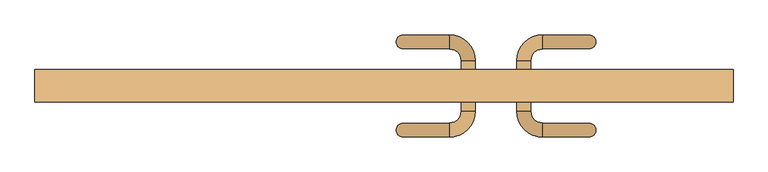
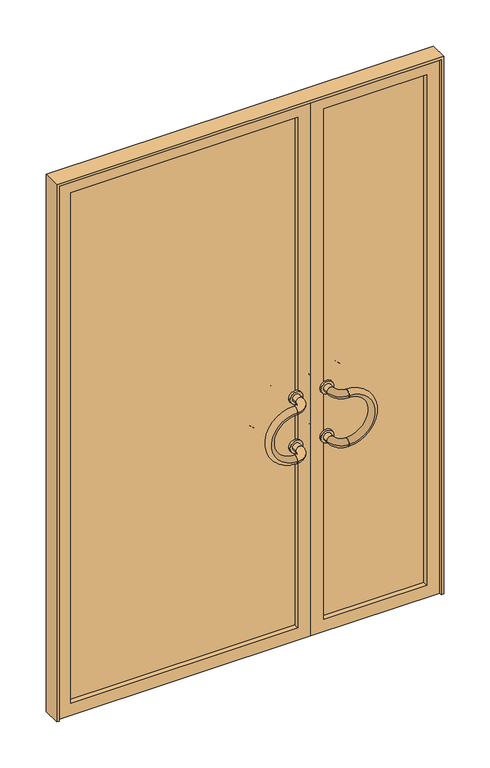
"""IFC4 building model written with IfcOpenShell, lengths in millimetres: door geometry, Tierce Vitrée grand vantail 93 : Double Vitrée."""

import ifcopenshell
import ifcopenshell.guid

model = None  # the IFC model being written
_history = None  # IfcOwnerHistory: only IFC2X3 demands one
_inside = {}  # id of a spatial element -> (the spatial element, [elements in it])
_under = {}  # id of a project, library or spatial element -> (it, [spatial elements below it])
_declared = {}  # id of a project -> (the project, [libraries it declares])
_typed = {}  # id of a type object -> (the type object, [elements of that type])
_made_of = {}  # id of a material, layer set ... -> (it, [elements and type objects made of it])


def new_model(schema):
    """Start an empty IFC model of exactly this schema.

    Asked for "IFC4X3", IfcOpenShell would pick the latest addendum, in which some entities
    have other attributes; the version numbers below select the first issue.
    IFC2X3 requires an IfcOwnerHistory on every rooted entity: one is made here for all.
    """
    global model, _history
    if schema == "IFC4X3":
        model = ifcopenshell.file(schema_version=(4, 3, 0, 0))
    else:
        model = ifcopenshell.file(schema=schema)
    _inside.clear()
    _under.clear()
    _declared.clear()
    _typed.clear()
    _made_of.clear()
    _history = None
    if model.schema == "IFC2X3":
        org = make("IfcOrganization", Name="unknown")
        user = make(
            "IfcPersonAndOrganization",
            ThePerson=make("IfcPerson", FamilyName="unknown"),
            TheOrganization=org,
        )
        app = make(
            "IfcApplication",
            ApplicationDeveloper=org,
            Version="unknown",
            ApplicationFullName="unknown",
            ApplicationIdentifier="unknown",
        )
        _history = make(
            "IfcOwnerHistory",
            OwningUser=user,
            OwningApplication=app,
            ChangeAction="ADDED",
            CreationDate=0,
        )
    return model


def make(cls, **values):
    """One entity of the class cls with the attributes given. An attribute that is None is left unset."""
    return model.create_entity(
        cls, **{name: value for name, value in values.items() if value is not None}
    )


def rooted(cls, **values):
    """An entity with a GlobalId (a new one), such as an element, a storey or a relation."""
    return make(cls, GlobalId=ifcopenshell.guid.new(), OwnerHistory=_history, **values)


def si_unit(unit_type, name, prefix=None):
    """IfcSIUnit, for example si_unit("LENGTHUNIT", "METRE", prefix="MILLI")."""
    return make("IfcSIUnit", UnitType=unit_type, Prefix=prefix, Name=name)


def assignment(units):
    """IfcUnitAssignment: the units of a project."""
    return None if units is None else make("IfcUnitAssignment", Units=units)


def point(xyz):
    """IfcCartesianPoint."""
    return None if xyz is None else make("IfcCartesianPoint", Coordinates=xyz)


def direction(xyz):
    """IfcDirection."""
    return None if xyz is None else make("IfcDirection", DirectionRatios=xyz)


def frame(location, z_axis=None, x_axis=None):
    """IfcAxis2Placement3D, a coordinate frame: its origin and axes. An axis left out is left unset."""
    return make(
        "IfcAxis2Placement3D",
        Location=point(location),
        Axis=direction(z_axis),
        RefDirection=direction(x_axis),
    )


def frame_2d(location, x_axis=None):
    """IfcAxis2Placement2D, a coordinate frame in the plane: its origin and x axis."""
    return make(
        "IfcAxis2Placement2D", Location=point(location), RefDirection=direction(x_axis)
    )


def origin():
    """The frame at (0, 0, 0) with its axes left unset."""
    return frame((0.0, 0.0, 0.0))


def place(relative_to, where):
    """IfcLocalPlacement: puts the frame where relative to a parent placement (None: the world)."""
    return make(
        "IfcLocalPlacement", PlacementRelTo=relative_to, RelativePlacement=where
    )


def context(
    kind, dimensions, precision=None, world=None, true_north=None, identifier=None
):
    """IfcGeometricRepresentationContext, for example the 3D "Model" context."""
    return make(
        "IfcGeometricRepresentationContext",
        ContextIdentifier=identifier,
        ContextType=kind,
        CoordinateSpaceDimension=dimensions,
        Precision=precision,
        WorldCoordinateSystem=world,
        TrueNorth=true_north,
    )


def project(units=None, contexts=None):
    """IfcProject with its units and contexts."""
    return rooted(
        "IfcProject",
        Name="project",
        RepresentationContexts=contexts,
        UnitsInContext=assignment(units),
    )


def spatial(cls, under=None, at=None, **own):
    """A site, building, storey or space (cls), placed at a placement, below another one or the project."""
    s = rooted(cls, ObjectPlacement=at, **own)
    if under is not None:
        _under.setdefault(under.id(), (under, []))[1].append(s)
    return s


def polyline(points):
    """IfcPolyline through the points."""
    return make("IfcPolyline", Points=[point(p) for p in points])


def circle_curve(where, radius):
    """IfcCircle in the frame where."""
    return make("IfcCircle", Position=where, Radius=radius)


def ellipse_curve(where, semi_axis1, semi_axis2):
    """IfcEllipse in the frame where."""
    return make(
        "IfcEllipse", Position=where, SemiAxis1=semi_axis1, SemiAxis2=semi_axis2
    )


def trimmed(basis, trim1, trim2, sense, master):
    """IfcTrimmedCurve: the piece of a basis curve between two trims."""
    return make(
        "IfcTrimmedCurve",
        BasisCurve=basis,
        Trim1=trim1,
        Trim2=trim2,
        SenseAgreement=sense,
        MasterRepresentation=master,
    )


def segment(curve, same_sense, transition):
    """IfcCompositeCurveSegment."""
    return make(
        "IfcCompositeCurveSegment",
        Transition=transition,
        SameSense=same_sense,
        ParentCurve=curve,
    )


def composite_curve(segments, self_intersect=None):
    """IfcCompositeCurve: segments joined end to end."""
    return make("IfcCompositeCurve", Segments=segments, SelfIntersect=self_intersect)


def outline(outer, holes=None, kind="AREA"):
    """IfcArbitraryClosedProfileDef: a profile drawn as a closed curve; with holes, ...WithVoids."""
    if holes is None:
        return make("IfcArbitraryClosedProfileDef", ProfileType=kind, OuterCurve=outer)
    return make(
        "IfcArbitraryProfileDefWithVoids",
        ProfileType=kind,
        OuterCurve=outer,
        InnerCurves=holes,
    )


def extrude(swept, where, along, depth):
    """IfcExtrudedAreaSolid: the profile swept, set in the frame where, extruded along a direction by depth."""
    return make(
        "IfcExtrudedAreaSolid",
        SweptArea=swept,
        Position=where,
        ExtrudedDirection=direction(along),
        Depth=depth,
    )


def shape(context_of_items, identifier, shape_type, items):
    """IfcShapeRepresentation: the items that make up one representation, for example the "Body"."""
    return make(
        "IfcShapeRepresentation",
        ContextOfItems=context_of_items,
        RepresentationIdentifier=identifier,
        RepresentationType=shape_type,
        Items=items,
    )


def source(mapping_origin, context_of_items, identifier, shape_type, items):
    """IfcRepresentationMap: a shape defined once, which mapped items show again and again."""
    return make(
        "IfcRepresentationMap",
        MappingOrigin=mapping_origin,
        MappedRepresentation=shape(context_of_items, identifier, shape_type, items),
    )


def transform(
    local_origin,
    x_axis=None,
    y_axis=None,
    z_axis=None,
    scale=None,
    scale2=None,
    scale3=None,
    uniform=True,
):
    """IfcCartesianTransformationOperator3D, or its non-uniform kind. x_axis, y_axis, z_axis: its Axis1, 2, 3."""
    if uniform:
        return make(
            "IfcCartesianTransformationOperator3D",
            Axis1=direction(x_axis),
            Axis2=direction(y_axis),
            LocalOrigin=point(local_origin),
            Scale=scale,
            Axis3=direction(z_axis),
        )
    return make(
        "IfcCartesianTransformationOperator3DnonUniform",
        Axis1=direction(x_axis),
        Axis2=direction(y_axis),
        LocalOrigin=point(local_origin),
        Scale=scale,
        Axis3=direction(z_axis),
        Scale2=scale2,
        Scale3=scale3,
    )


def mapped(mapping_source, mapping_target):
    """IfcMappedItem: shows the shape of a source again, moved by a transform."""
    return make(
        "IfcMappedItem", MappingSource=mapping_source, MappingTarget=mapping_target
    )


def made_of(thing, what):
    """Note that an element or type object is made of a material, layer set ...; save() writes the relation."""
    if what is not None:
        _made_of.setdefault(what.id(), (what, []))[1].append(thing)
    return thing


def element(
    cls,
    number,
    at=None,
    inside=None,
    cuts=None,
    type_object=None,
    material=None,
    context=None,
    identifier="Body",
    shape_type=None,
    held_by="IfcProductDefinitionShape",
    body=None,
    shapes=None,
    **own,
):
    """One element of the class cls, such as IfcWall. Its Tag is "e" and its number.

    at: its placement. inside: the storey or other place that contains it. cuts: it is an
    opening in that element (IfcRelVoidsElement). A single representation is given by context,
    identifier, shape_type and body (its items); several are given by shapes. held_by: the class
    of the entity that holds the representations. save() writes the other relations.
    """
    e = rooted(cls, Tag="e%d" % number, ObjectPlacement=at, **own)
    if body is not None:
        shapes = [shape(context, identifier, shape_type, body)]
    if shapes is not None:
        e.Representation = make(held_by, Representations=shapes)
    if inside is not None:
        _inside.setdefault(inside.id(), (inside, []))[1].append(e)
    if cuts is not None:
        rooted(
            "IfcRelVoidsElement", RelatingBuildingElement=cuts, RelatedOpeningElement=e
        )
    if type_object is not None:
        _typed.setdefault(type_object.id(), (type_object, []))[1].append(e)
    return made_of(e, material)


def aggregate(whole, parts):
    """IfcRelAggregates: a whole, such as a stair, and the parts it consists of."""
    return rooted("IfcRelAggregates", RelatingObject=whole, RelatedObjects=parts)


def save(model, path):
    """Write the relations noted so far, then the file.

    IfcRelAggregates (storeys below a building ...), IfcRelContainedInSpatialStructure (elements
    in a storey), IfcRelDefinesByType, IfcRelAssociatesMaterial and IfcRelDeclares: one each for
    every whole, place, type object, material and project.
    """
    for whole, parts in _under.values():
        aggregate(whole, parts)
    for where, things in _inside.values():
        rooted(
            "IfcRelContainedInSpatialStructure",
            RelatedElements=things,
            RelatingStructure=where,
        )
    for kind, things in _typed.values():
        rooted("IfcRelDefinesByType", RelatedObjects=things, RelatingType=kind)
    for what, things in _made_of.values():
        rooted("IfcRelAssociatesMaterial", RelatedObjects=things, RelatingMaterial=what)
    for by, libraries in _declared.values():
        rooted("IfcRelDeclares", RelatingContext=by, RelatedDefinitions=libraries)
    model.write(path)


def plane_surface(at):
    """IfcPlane: the flat surface through the origin of the frame at, square to its z axis."""
    return make("IfcPlane", Position=at)


def revolved_surface(curve, axis_point, axis_direction):
    """IfcSurfaceOfRevolution: the curve turned about the line through axis_point along axis_direction."""
    return make(
        "IfcSurfaceOfRevolution",
        SweptCurve=make("IfcArbitraryOpenProfileDef", ProfileType="CURVE", Curve=curve),
        AxisPosition=make("IfcAxis1Placement", Location=point(axis_point), Axis=direction(axis_direction)),
    )


def advanced_brep(points, edges, surfaces, faces):
    """IfcAdvancedBrep: a solid bounded by faces that lie on surfaces and meet in shared edges.

    An edge is (start, end): straight between two places in points (the first is 0);
    or (start, end, curve); or (start, end, curve, False) where it runs against its curve.
    A face is (place in surfaces, loops), or (place, loops, False) where it looks against
    its surface's normal. A loop lists edges by number (the first is 1), with a minus sign
    where the edge is run from its end to its start. The first loop is the outer one.
    """
    corners = [point(p) for p in points]
    vertices = [make("IfcVertexPoint", VertexGeometry=c) for c in corners]
    made = []
    for start, end, *more in edges:
        made.append(
            make(
                "IfcEdgeCurve",
                EdgeStart=vertices[start],
                EdgeEnd=vertices[end],
                EdgeGeometry=more[0] if more else make("IfcPolyline", Points=[corners[start], corners[end]]),
                SameSense=more[1] if len(more) > 1 else True,
            )
        )
    hull = []
    for where, loops, *sense in faces:
        bounds = []
        for j, loop in enumerate(loops):
            ring = [make("IfcOrientedEdge", EdgeElement=made[abs(k) - 1], Orientation=k > 0) for k in loop]
            bounds.append(
                make(
                    "IfcFaceOuterBound" if j == 0 else "IfcFaceBound",
                    Bound=make("IfcEdgeLoop", EdgeList=ring),
                    Orientation=True,
                )
            )
        hull.append(make("IfcAdvancedFace", Bounds=bounds, FaceSurface=surfaces[where], SameSense=sense[0] if sense else True))
    return make("IfcAdvancedBrep", Outer=make("IfcClosedShell", CfsFaces=hull))


def door_c1640d6f(model_context):
    return source(origin(), model_context, "Body", "SolidModel", [
        extrude(outline(composite_curve([segment(trimmed(circle_curve(frame_2d((1000.0, 180.5)), 25.0), [point((1000.0, 205.5))], [point((1000.0, 155.5))], False, "CARTESIAN"), True, "CONTINUOUS"), segment(trimmed(circle_curve(frame_2d((1000.0, 180.5)), 25.0), [point((1000.0, 155.5))], [point((1000.0, 205.5))], False, "CARTESIAN"), True, "CONTINUOUS")], self_intersect=False), holes=[composite_curve([segment(trimmed(circle_curve(frame_2d((1000.0, 180.5)), 15.0), [point((1000.0, 195.5))], [point((1000.0, 165.5))], True, "CARTESIAN"), True, "CONTINUOUS"), segment(trimmed(circle_curve(frame_2d((1000.0, 180.5)), 15.0), [point((1000.0, 165.5))], [point((1000.0, 195.5))], True, "CARTESIAN"), True, "CONTINUOUS")], self_intersect=False)]), frame((0.0, 35.0, 0.0), z_axis=(0.0, 1.0, 0.0), x_axis=(0.0, 0.0, 1.0)), (0.0, 0.0, 1.0), 8.0),
        extrude(outline(composite_curve([segment(trimmed(circle_curve(frame_2d((800.0, 180.5)), 25.0), [point((800.0, 205.5))], [point((800.0, 155.5))], False, "CARTESIAN"), True, "CONTINUOUS"), segment(trimmed(circle_curve(frame_2d((800.0, 180.5)), 25.0), [point((800.0, 155.5))], [point((800.0, 205.5))], False, "CARTESIAN"), True, "CONTINUOUS")], self_intersect=False), holes=[composite_curve([segment(trimmed(circle_curve(frame_2d((800.0, 180.5)), 15.0), [point((800.0, 195.5))], [point((800.0, 165.5))], True, "CARTESIAN"), True, "CONTINUOUS"), segment(trimmed(circle_curve(frame_2d((800.0, 180.5)), 15.0), [point((800.0, 165.5))], [point((800.0, 195.5))], True, "CARTESIAN"), True, "CONTINUOUS")], self_intersect=False)]), frame((0.0, 35.0, 0.0), z_axis=(0.0, 1.0, 0.0), x_axis=(0.0, 0.0, 1.0)), (0.0, 0.0, 1.0), 8.0),
        extrude(outline(composite_curve([segment(trimmed(circle_curve(frame_2d((1000.0, 180.5)), 25.0), [point((1000.0, 205.5))], [point((1000.0, 155.5))], False, "CARTESIAN"), True, "CONTINUOUS"), segment(trimmed(circle_curve(frame_2d((1000.0, 180.5)), 25.0), [point((1000.0, 155.5))], [point((1000.0, 205.5))], False, "CARTESIAN"), True, "CONTINUOUS")], self_intersect=False), holes=[composite_curve([segment(trimmed(circle_curve(frame_2d((1000.0, 180.5)), 15.0), [point((1000.0, 195.5))], [point((1000.0, 165.5))], True, "CARTESIAN"), True, "CONTINUOUS"), segment(trimmed(circle_curve(frame_2d((1000.0, 180.5)), 15.0), [point((1000.0, 165.5))], [point((1000.0, 195.5))], True, "CARTESIAN"), True, "CONTINUOUS")], self_intersect=False)]), frame((0.0, -23.0, 0.0), z_axis=(0.0, 1.0, 0.0), x_axis=(0.0, 0.0, 1.0)), (0.0, 0.0, 1.0), 8.0),
        extrude(outline(composite_curve([segment(trimmed(circle_curve(frame_2d((800.0, 180.5)), 25.0), [point((800.0, 205.5))], [point((800.0, 155.5))], False, "CARTESIAN"), True, "CONTINUOUS"), segment(trimmed(circle_curve(frame_2d((800.0, 180.5)), 25.0), [point((800.0, 155.5))], [point((800.0, 205.5))], False, "CARTESIAN"), True, "CONTINUOUS")], self_intersect=False), holes=[composite_curve([segment(trimmed(circle_curve(frame_2d((800.0, 180.5)), 15.0), [point((800.0, 195.5))], [point((800.0, 165.5))], True, "CARTESIAN"), True, "CONTINUOUS"), segment(trimmed(circle_curve(frame_2d((800.0, 180.5)), 15.0), [point((800.0, 165.5))], [point((800.0, 195.5))], True, "CARTESIAN"), True, "CONTINUOUS")], self_intersect=False)]), frame((0.0, -23.0, 0.0), z_axis=(0.0, 1.0, 0.0), x_axis=(0.0, 0.0, 1.0)), (0.0, 0.0, 1.0), 8.0),
        advanced_brep(
        [(140.5, 120.0, 1000.0), (140.5, 90.0, 1000.0), (140.5, 120.0, 800.0), (140.5, 90.0, 800.0)],
        [
            (0, 1, circle_curve(frame((140.5, 105.0, 1000.0), z_axis=(1.0, 0.0, 0.0), x_axis=(0.0, -1.0, 0.0)), 15.0)),
            (1, 0, circle_curve(frame((140.5, 105.0, 1000.0), z_axis=(1.0, 0.0, 0.0), x_axis=(0.0, -1.0, 0.0)), 15.0)),
            (2, 3, circle_curve(frame((140.5, 105.0, 800.0), z_axis=(1.0, 0.0, 0.0), x_axis=(0.0, -1.0, 0.0)), 15.0)),
            (3, 2, circle_curve(frame((140.5, 105.0, 800.0), z_axis=(1.0, 0.0, 0.0), x_axis=(0.0, -1.0, 0.0)), 15.0)),
            (2, 0, circle_curve(frame((140.5, 120.0, 900.0), z_axis=(0.0, 1.0, 0.0), x_axis=(0.0, 0.0, 1.0)), 100.0)),
            (1, 3, circle_curve(frame((140.5, 90.0, 900.0), z_axis=(0.0, -1.0, 0.0), x_axis=(0.0, 0.0, 1.0)), 100.0)),
        ],
        [
            plane_surface(frame((140.5, 105.0, 900.0), z_axis=(1.0, 0.0, 0.0), x_axis=(0.0, 0.0, 1.0))),
            plane_surface(frame((140.5, 105.0, 900.0), z_axis=(1.0, 0.0, 0.0), x_axis=(0.0, 0.0, -1.0))),
            revolved_surface(trimmed(ellipse_curve(frame((140.5, 105.0, 1000.0), z_axis=(-1.0, 0.0, 0.0), x_axis=(0.0, -1.0, 0.0)), 15.0, 15.0), [point((140.5, 120.0, 1000.0))], [point((140.5, 90.0, 1000.0))], True, "CARTESIAN"), (140.5, 105.0, 900.0), (0.0, 1.0, 0.0)),
            revolved_surface(trimmed(ellipse_curve(frame((140.5, 105.0, 1000.0), z_axis=(-1.0, 0.0, 0.0), x_axis=(0.0, -1.0, 0.0)), 15.0, 15.0), [point((140.5, 90.0, 1000.0))], [point((140.5, 120.0, 1000.0))], True, "CARTESIAN"), (140.5, 105.0, 900.0), (0.0, 1.0, 0.0)),
        ],
        [
            (0, [[1, 2]]),
            (1, [[3, 4]]),
            (2, [[-3, 5, -2, 6]]),
            (3, [[-4, -6, -1, -5]]),
        ],
    ),
        advanced_brep(
        [(165.5, 65.0, 1000.0), (195.5, 65.0, 1000.0), (140.5, 90.0, 1000.0), (140.5, 120.0, 1000.0)],
        [
            (0, 1, circle_curve(frame((180.5, 65.0, 1000.0), z_axis=(0.0, -1.0, 0.0), x_axis=(1.0, 0.0, 0.0)), 15.0)),
            (1, 0, circle_curve(frame((180.5, 65.0, 1000.0), z_axis=(0.0, -1.0, 0.0), x_axis=(1.0, 0.0, 0.0)), 15.0)),
            (2, 3, circle_curve(frame((140.5, 105.0, 1000.0), z_axis=(-1.0, 0.0, 0.0), x_axis=(0.0, 1.0, 0.0)), 15.0)),
            (3, 2, circle_curve(frame((140.5, 105.0, 1000.0), z_axis=(-1.0, 0.0, 0.0), x_axis=(0.0, 1.0, 0.0)), 15.0)),
            (2, 0, circle_curve(frame((140.5, 65.0, 1000.0), z_axis=(0.0, 0.0, -1.0), x_axis=(1.0, 0.0, 0.0)), 25.0)),
            (1, 3, circle_curve(frame((140.5, 65.0, 1000.0), z_axis=(0.0, 0.0, 1.0), x_axis=(1.0, 0.0, 0.0)), 55.0)),
        ],
        [
            plane_surface(frame((140.5, 65.0, 1000.0), z_axis=(0.0, -1.0, 0.0), x_axis=(1.0, 0.0, 0.0))),
            plane_surface(frame((140.5, 65.0, 1000.0), z_axis=(-1.0, 0.0, 0.0), x_axis=(0.0, 1.0, 0.0))),
            revolved_surface(trimmed(ellipse_curve(frame((180.5, 65.0, 1000.0), z_axis=(0.0, 1.0, 0.0), x_axis=(1.0, 0.0, 0.0)), 15.0, 15.0), [point((165.5, 65.0, 1000.0))], [point((195.5, 65.0, 1000.0))], True, "CARTESIAN"), (140.5, 65.0, 1000.0), (0.0, 0.0, -1.0)),
            revolved_surface(trimmed(ellipse_curve(frame((180.5, 65.0, 1000.0), z_axis=(0.0, 1.0, 0.0), x_axis=(1.0, 0.0, 0.0)), 15.0, 15.0), [point((195.5, 65.0, 1000.0))], [point((165.5, 65.0, 1000.0))], True, "CARTESIAN"), (140.5, 65.0, 1000.0), (0.0, 0.0, -1.0)),
        ],
        [
            (0, [[1, 2]]),
            (1, [[3, 4]]),
            (2, [[-3, 5, -2, 6]]),
            (3, [[-4, -6, -1, -5]]),
        ],
    ),
        advanced_brep(
        [(165.5, 65.0, 800.0), (195.5, 65.0, 800.0), (140.5, 90.0, 800.0), (140.5, 120.0, 800.0)],
        [
            (0, 1, circle_curve(frame((180.5, 65.0, 800.0), z_axis=(0.0, -1.0, 0.0), x_axis=(1.0, 0.0, 0.0)), 15.0)),
            (1, 0, circle_curve(frame((180.5, 65.0, 800.0), z_axis=(0.0, -1.0, 0.0), x_axis=(1.0, 0.0, 0.0)), 15.0)),
            (2, 3, circle_curve(frame((140.5, 105.0, 800.0), z_axis=(-1.0, 0.0, 0.0), x_axis=(0.0, 1.0, 0.0)), 15.0)),
            (3, 2, circle_curve(frame((140.5, 105.0, 800.0), z_axis=(-1.0, 0.0, 0.0), x_axis=(0.0, 1.0, 0.0)), 15.0)),
            (2, 0, circle_curve(frame((140.5, 65.0, 800.0), z_axis=(0.0, 0.0, -1.0), x_axis=(1.0, 0.0, 0.0)), 25.0)),
            (1, 3, circle_curve(frame((140.5, 65.0, 800.0), z_axis=(0.0, 0.0, 1.0), x_axis=(1.0, 0.0, 0.0)), 55.0)),
        ],
        [
            plane_surface(frame((140.5, 65.0, 1000.0), z_axis=(0.0, -1.0, 0.0), x_axis=(1.0, 0.0, 0.0))),
            plane_surface(frame((140.5, 65.0, 1000.0), z_axis=(-1.0, 0.0, 0.0), x_axis=(0.0, 1.0, 0.0))),
            revolved_surface(trimmed(ellipse_curve(frame((180.5, 65.0, 800.0), z_axis=(0.0, 1.0, 0.0), x_axis=(1.0, 0.0, 0.0)), 15.0, 15.0), [point((165.5, 65.0, 800.0))], [point((195.5, 65.0, 800.0))], True, "CARTESIAN"), (140.5, 65.0, 1000.0), (0.0, 0.0, -1.0)),
            revolved_surface(trimmed(ellipse_curve(frame((180.5, 65.0, 800.0), z_axis=(0.0, 1.0, 0.0), x_axis=(1.0, 0.0, 0.0)), 15.0, 15.0), [point((195.5, 65.0, 800.0))], [point((165.5, 65.0, 800.0))], True, "CARTESIAN"), (140.5, 65.0, 1000.0), (0.0, 0.0, -1.0)),
        ],
        [
            (0, [[1, 2]]),
            (1, [[3, 4]]),
            (2, [[-3, 5, -2, 6]]),
            (3, [[-4, -6, -1, -5]]),
        ],
    ),
        extrude(outline(composite_curve([segment(trimmed(circle_curve(frame_2d((1000.0, 180.5)), 15.0), [point((1000.0, 195.5))], [point((1000.0, 165.5))], False, "CARTESIAN"), True, "CONTINUOUS"), segment(trimmed(circle_curve(frame_2d((1000.0, 180.5)), 15.0), [point((1000.0, 165.5))], [point((1000.0, 195.5))], False, "CARTESIAN"), True, "CONTINUOUS")], self_intersect=False)), frame((0.0, 35.0, 0.0), z_axis=(0.0, 1.0, 0.0), x_axis=(0.0, 0.0, 1.0)), (0.0, 0.0, 1.0), 30.0),
        extrude(outline(composite_curve([segment(trimmed(circle_curve(frame_2d((800.0, 180.5)), 15.0), [point((800.0, 195.5))], [point((800.0, 165.5))], False, "CARTESIAN"), True, "CONTINUOUS"), segment(trimmed(circle_curve(frame_2d((800.0, 180.5)), 15.0), [point((800.0, 165.5))], [point((800.0, 195.5))], False, "CARTESIAN"), True, "CONTINUOUS")], self_intersect=False)), frame((0.0, 35.0, 0.0), z_axis=(0.0, 1.0, 0.0), x_axis=(0.0, 0.0, 1.0)), (0.0, 0.0, 1.0), 30.0),
        advanced_brep(
        [(140.5, -70.0, 1000.0), (140.5, -100.0, 1000.0), (140.5, -70.0, 800.0), (140.5, -100.0, 800.0)],
        [
            (0, 1, circle_curve(frame((140.5, -85.0, 1000.0), z_axis=(1.0, 0.0, 0.0), x_axis=(0.0, -1.0, 0.0)), 15.0)),
            (1, 0, circle_curve(frame((140.5, -85.0, 1000.0), z_axis=(1.0, 0.0, 0.0), x_axis=(0.0, -1.0, 0.0)), 15.0)),
            (2, 3, circle_curve(frame((140.5, -85.0, 800.0), z_axis=(1.0, 0.0, 0.0), x_axis=(0.0, -1.0, 0.0)), 15.0)),
            (3, 2, circle_curve(frame((140.5, -85.0, 800.0), z_axis=(1.0, 0.0, 0.0), x_axis=(0.0, -1.0, 0.0)), 15.0)),
            (2, 0, circle_curve(frame((140.5, -70.0, 900.0), z_axis=(0.0, 1.0, 0.0), x_axis=(0.0, 0.0, 1.0)), 100.0)),
            (1, 3, circle_curve(frame((140.5, -100.0, 900.0), z_axis=(0.0, -1.0, 0.0), x_axis=(0.0, 0.0, 1.0)), 100.0)),
        ],
        [
            plane_surface(frame((140.5, -100.0, 900.0), z_axis=(1.0, 0.0, 0.0), x_axis=(0.0, 0.0, 1.0))),
            plane_surface(frame((140.5, -100.0, 900.0), z_axis=(1.0, 0.0, 0.0), x_axis=(0.0, 0.0, -1.0))),
            revolved_surface(trimmed(ellipse_curve(frame((140.5, -85.0, 1000.0), z_axis=(-1.0, 0.0, 0.0), x_axis=(0.0, -1.0, 0.0)), 15.0, 15.0), [point((140.5, -70.0, 1000.0))], [point((140.5, -100.0, 1000.0))], True, "CARTESIAN"), (140.5, -100.0, 900.0), (0.0, 1.0, 0.0)),
            revolved_surface(trimmed(ellipse_curve(frame((140.5, -85.0, 1000.0), z_axis=(-1.0, 0.0, 0.0), x_axis=(0.0, -1.0, 0.0)), 15.0, 15.0), [point((140.5, -100.0, 1000.0))], [point((140.5, -70.0, 1000.0))], True, "CARTESIAN"), (140.5, -100.0, 900.0), (0.0, 1.0, 0.0)),
        ],
        [
            (0, [[1, 2]]),
            (1, [[3, 4]]),
            (2, [[-3, 5, -2, 6]]),
            (3, [[-4, -6, -1, -5]]),
        ],
    ),
        advanced_brep(
        [(195.5, -45.0, 1000.0), (165.5, -45.0, 1000.0), (140.5, -100.0, 1000.0), (140.5, -70.0, 1000.0)],
        [
            (0, 1, circle_curve(frame((180.5, -45.0, 1000.0), z_axis=(0.0, 1.0, 0.0), x_axis=(-1.0, 0.0, 0.0)), 15.0)),
            (1, 0, circle_curve(frame((180.5, -45.0, 1000.0), z_axis=(0.0, 1.0, 0.0), x_axis=(-1.0, 0.0, 0.0)), 15.0)),
            (2, 3, circle_curve(frame((140.5, -85.0, 1000.0), z_axis=(-1.0, 0.0, 0.0), x_axis=(0.0, 1.0, 0.0)), 15.0)),
            (3, 2, circle_curve(frame((140.5, -85.0, 1000.0), z_axis=(-1.0, 0.0, 0.0), x_axis=(0.0, 1.0, 0.0)), 15.0)),
            (2, 0, circle_curve(frame((140.5, -45.0, 1000.0), z_axis=(0.0, 0.0, 1.0), x_axis=(1.0, 0.0, 0.0)), 55.0)),
            (1, 3, circle_curve(frame((140.5, -45.0, 1000.0), z_axis=(0.0, 0.0, -1.0), x_axis=(1.0, 0.0, 0.0)), 25.0)),
        ],
        [
            plane_surface(frame((140.5, -45.0, 1000.0), z_axis=(0.0, 1.0, 0.0), x_axis=(1.0, 0.0, 0.0))),
            plane_surface(frame((140.5, -45.0, 1000.0), z_axis=(-1.0, 0.0, 0.0), x_axis=(0.0, -1.0, 0.0))),
            revolved_surface(trimmed(ellipse_curve(frame((180.5, -45.0, 1000.0), z_axis=(0.0, -1.0, 0.0), x_axis=(-1.0, 0.0, 0.0)), 15.0, 15.0), [point((195.5, -45.0, 1000.0))], [point((165.5, -45.0, 1000.0))], True, "CARTESIAN"), (140.5, -45.0, 1000.0), (0.0, 0.0, 1.0)),
            revolved_surface(trimmed(ellipse_curve(frame((180.5, -45.0, 1000.0), z_axis=(0.0, -1.0, 0.0), x_axis=(-1.0, 0.0, 0.0)), 15.0, 15.0), [point((165.5, -45.0, 1000.0))], [point((195.5, -45.0, 1000.0))], True, "CARTESIAN"), (140.5, -45.0, 1000.0), (0.0, 0.0, 1.0)),
        ],
        [
            (0, [[1, 2]]),
            (1, [[3, 4]]),
            (2, [[-3, 5, -2, 6]]),
            (3, [[-4, -6, -1, -5]]),
        ],
    ),
        advanced_brep(
        [(195.5, -45.0, 800.0), (165.5, -45.0, 800.0), (140.5, -100.0, 800.0), (140.5, -70.0, 800.0)],
        [
            (0, 1, circle_curve(frame((180.5, -45.0, 800.0), z_axis=(0.0, 1.0, 0.0), x_axis=(-1.0, 0.0, 0.0)), 15.0)),
            (1, 0, circle_curve(frame((180.5, -45.0, 800.0), z_axis=(0.0, 1.0, 0.0), x_axis=(-1.0, 0.0, 0.0)), 15.0)),
            (2, 3, circle_curve(frame((140.5, -85.0, 800.0), z_axis=(-1.0, 0.0, 0.0), x_axis=(0.0, 1.0, 0.0)), 15.0)),
            (3, 2, circle_curve(frame((140.5, -85.0, 800.0), z_axis=(-1.0, 0.0, 0.0), x_axis=(0.0, 1.0, 0.0)), 15.0)),
            (2, 0, circle_curve(frame((140.5, -45.0, 800.0), z_axis=(0.0, 0.0, 1.0), x_axis=(1.0, 0.0, 0.0)), 55.0)),
            (1, 3, circle_curve(frame((140.5, -45.0, 800.0), z_axis=(0.0, 0.0, -1.0), x_axis=(1.0, 0.0, 0.0)), 25.0)),
        ],
        [
            plane_surface(frame((140.5, -45.0, 1000.0), z_axis=(0.0, 1.0, 0.0), x_axis=(1.0, 0.0, 0.0))),
            plane_surface(frame((140.5, -45.0, 1000.0), z_axis=(-1.0, 0.0, 0.0), x_axis=(0.0, -1.0, 0.0))),
            revolved_surface(trimmed(ellipse_curve(frame((180.5, -45.0, 800.0), z_axis=(0.0, -1.0, 0.0), x_axis=(-1.0, 0.0, 0.0)), 15.0, 15.0), [point((195.5, -45.0, 800.0))], [point((165.5, -45.0, 800.0))], True, "CARTESIAN"), (140.5, -45.0, 1000.0), (0.0, 0.0, 1.0)),
            revolved_surface(trimmed(ellipse_curve(frame((180.5, -45.0, 800.0), z_axis=(0.0, -1.0, 0.0), x_axis=(-1.0, 0.0, 0.0)), 15.0, 15.0), [point((165.5, -45.0, 800.0))], [point((195.5, -45.0, 800.0))], True, "CARTESIAN"), (140.5, -45.0, 1000.0), (0.0, 0.0, 1.0)),
        ],
        [
            (0, [[1, 2]]),
            (1, [[3, 4]]),
            (2, [[-3, 5, -2, 6]]),
            (3, [[-4, -6, -1, -5]]),
        ],
    ),
        extrude(outline(composite_curve([segment(trimmed(circle_curve(frame_2d((1000.0, 180.5)), 15.0), [point((1000.0, 195.5))], [point((1000.0, 165.5))], False, "CARTESIAN"), True, "CONTINUOUS"), segment(trimmed(circle_curve(frame_2d((1000.0, 180.5)), 15.0), [point((1000.0, 165.5))], [point((1000.0, 195.5))], False, "CARTESIAN"), True, "CONTINUOUS")], self_intersect=False)), frame((0.0, -45.0, 0.0), z_axis=(0.0, 1.0, 0.0), x_axis=(0.0, 0.0, 1.0)), (0.0, 0.0, 1.0), 30.0),
        extrude(outline(composite_curve([segment(trimmed(circle_curve(frame_2d((800.0, 180.5)), 15.0), [point((800.0, 195.5))], [point((800.0, 165.5))], False, "CARTESIAN"), True, "CONTINUOUS"), segment(trimmed(circle_curve(frame_2d((800.0, 180.5)), 15.0), [point((800.0, 165.5))], [point((800.0, 195.5))], False, "CARTESIAN"), True, "CONTINUOUS")], self_intersect=False)), frame((0.0, -45.0, 0.0), z_axis=(0.0, 1.0, 0.0), x_axis=(0.0, 0.0, 1.0)), (0.0, 0.0, 1.0), 30.0),
        extrude(outline(composite_curve([segment(trimmed(circle_curve(frame_2d((1000.0, 300.5)), 25.0), [point((1000.0, 275.5))], [point((1000.0, 325.5))], False, "CARTESIAN"), True, "CONTINUOUS"), segment(trimmed(circle_curve(frame_2d((1000.0, 300.5)), 25.0), [point((1000.0, 325.5))], [point((1000.0, 275.5))], False, "CARTESIAN"), True, "CONTINUOUS")], self_intersect=False), holes=[composite_curve([segment(trimmed(circle_curve(frame_2d((1000.0, 300.5)), 15.0), [point((1000.0, 285.5))], [point((1000.0, 315.5))], True, "CARTESIAN"), True, "CONTINUOUS"), segment(trimmed(circle_curve(frame_2d((1000.0, 300.5)), 15.0), [point((1000.0, 315.5))], [point((1000.0, 285.5))], True, "CARTESIAN"), True, "CONTINUOUS")], self_intersect=False)]), frame((0.0, 35.0, 0.0), z_axis=(0.0, 1.0, 0.0), x_axis=(0.0, 0.0, 1.0)), (0.0, 0.0, 1.0), 8.0),
        extrude(outline(composite_curve([segment(trimmed(circle_curve(frame_2d((800.0, 300.5)), 25.0), [point((800.0, 275.5))], [point((800.0, 325.5))], False, "CARTESIAN"), True, "CONTINUOUS"), segment(trimmed(circle_curve(frame_2d((800.0, 300.5)), 25.0), [point((800.0, 325.5))], [point((800.0, 275.5))], False, "CARTESIAN"), True, "CONTINUOUS")], self_intersect=False), holes=[composite_curve([segment(trimmed(circle_curve(frame_2d((800.0, 300.5)), 15.0), [point((800.0, 285.5))], [point((800.0, 315.5))], True, "CARTESIAN"), True, "CONTINUOUS"), segment(trimmed(circle_curve(frame_2d((800.0, 300.5)), 15.0), [point((800.0, 315.5))], [point((800.0, 285.5))], True, "CARTESIAN"), True, "CONTINUOUS")], self_intersect=False)]), frame((0.0, 35.0, 0.0), z_axis=(0.0, 1.0, 0.0), x_axis=(0.0, 0.0, 1.0)), (0.0, 0.0, 1.0), 8.0),
        extrude(outline(composite_curve([segment(trimmed(circle_curve(frame_2d((1000.0, 300.5)), 25.0), [point((1000.0, 275.5))], [point((1000.0, 325.5))], False, "CARTESIAN"), True, "CONTINUOUS"), segment(trimmed(circle_curve(frame_2d((1000.0, 300.5)), 25.0), [point((1000.0, 325.5))], [point((1000.0, 275.5))], False, "CARTESIAN"), True, "CONTINUOUS")], self_intersect=False), holes=[composite_curve([segment(trimmed(circle_curve(frame_2d((1000.0, 300.5)), 15.0), [point((1000.0, 285.5))], [point((1000.0, 315.5))], True, "CARTESIAN"), True, "CONTINUOUS"), segment(trimmed(circle_curve(frame_2d((1000.0, 300.5)), 15.0), [point((1000.0, 315.5))], [point((1000.0, 285.5))], True, "CARTESIAN"), True, "CONTINUOUS")], self_intersect=False)]), frame((0.0, -23.0, 0.0), z_axis=(0.0, 1.0, 0.0), x_axis=(0.0, 0.0, 1.0)), (0.0, 0.0, 1.0), 8.0),
        extrude(outline(composite_curve([segment(trimmed(circle_curve(frame_2d((800.0, 300.5)), 25.0), [point((800.0, 275.5))], [point((800.0, 325.5))], False, "CARTESIAN"), True, "CONTINUOUS"), segment(trimmed(circle_curve(frame_2d((800.0, 300.5)), 25.0), [point((800.0, 325.5))], [point((800.0, 275.5))], False, "CARTESIAN"), True, "CONTINUOUS")], self_intersect=False), holes=[composite_curve([segment(trimmed(circle_curve(frame_2d((800.0, 300.5)), 15.0), [point((800.0, 285.5))], [point((800.0, 315.5))], True, "CARTESIAN"), True, "CONTINUOUS"), segment(trimmed(circle_curve(frame_2d((800.0, 300.5)), 15.0), [point((800.0, 315.5))], [point((800.0, 285.5))], True, "CARTESIAN"), True, "CONTINUOUS")], self_intersect=False)]), frame((0.0, -23.0, 0.0), z_axis=(0.0, 1.0, 0.0), x_axis=(0.0, 0.0, 1.0)), (0.0, 0.0, 1.0), 8.0),
        advanced_brep(
        [(340.5, 120.0, 1000.0), (340.5, 90.0, 1000.0), (340.5, 120.0, 800.0), (340.5, 90.0, 800.0)],
        [
            (0, 1, circle_curve(frame((340.5, 105.0, 1000.0), z_axis=(-1.0, 0.0, 0.0), x_axis=(0.0, -1.0, 0.0)), 15.0)),
            (1, 0, circle_curve(frame((340.5, 105.0, 1000.0), z_axis=(-1.0, 0.0, 0.0), x_axis=(0.0, -1.0, 0.0)), 15.0)),
            (2, 3, circle_curve(frame((340.5, 105.0, 800.0), z_axis=(-1.0, 0.0, 0.0), x_axis=(0.0, -1.0, 0.0)), 15.0)),
            (3, 2, circle_curve(frame((340.5, 105.0, 800.0), z_axis=(-1.0, 0.0, 0.0), x_axis=(0.0, -1.0, 0.0)), 15.0)),
            (3, 1, circle_curve(frame((340.5, 90.0, 900.0), z_axis=(0.0, -1.0, 0.0), x_axis=(0.0, 0.0, 1.0)), 100.0)),
            (0, 2, circle_curve(frame((340.5, 120.0, 900.0), z_axis=(0.0, 1.0, 0.0), x_axis=(0.0, 0.0, 1.0)), 100.0)),
        ],
        [
            plane_surface(frame((340.5, 105.0, 900.0), z_axis=(-1.0, 0.0, 0.0), x_axis=(0.0, 0.0, 1.0))),
            plane_surface(frame((340.5, 105.0, 900.0), z_axis=(-1.0, 0.0, 0.0), x_axis=(0.0, 0.0, -1.0))),
            revolved_surface(trimmed(ellipse_curve(frame((340.5, 105.0, 1000.0), z_axis=(-1.0, 0.0, 0.0), x_axis=(0.0, -1.0, 0.0)), 15.0, 15.0), [point((340.5, 120.0, 1000.0))], [point((340.5, 90.0, 1000.0))], True, "CARTESIAN"), (340.5, 105.0, 900.0), (0.0, 1.0, 0.0)),
            revolved_surface(trimmed(ellipse_curve(frame((340.5, 105.0, 1000.0), z_axis=(-1.0, 0.0, 0.0), x_axis=(0.0, -1.0, 0.0)), 15.0, 15.0), [point((340.5, 90.0, 1000.0))], [point((340.5, 120.0, 1000.0))], True, "CARTESIAN"), (340.5, 105.0, 900.0), (0.0, 1.0, 0.0)),
        ],
        [
            (0, [[1, 2]]),
            (1, [[3, 4]]),
            (2, [[5, -1, 6, -4]]),
            (3, [[-6, -2, -5, -3]]),
        ],
    ),
        advanced_brep(
        [(315.5, 65.0, 1000.0), (285.5, 65.0, 1000.0), (340.5, 90.0, 1000.0), (340.5, 120.0, 1000.0)],
        [
            (0, 1, circle_curve(frame((300.5, 65.0, 1000.0), z_axis=(0.0, -1.0, 0.0), x_axis=(-1.0, 0.0, 0.0)), 15.0)),
            (1, 0, circle_curve(frame((300.5, 65.0, 1000.0), z_axis=(0.0, -1.0, 0.0), x_axis=(-1.0, 0.0, 0.0)), 15.0)),
            (2, 3, circle_curve(frame((340.5, 105.0, 1000.0), z_axis=(1.0, 0.0, 0.0), x_axis=(0.0, 1.0, 0.0)), 15.0)),
            (3, 2, circle_curve(frame((340.5, 105.0, 1000.0), z_axis=(1.0, 0.0, 0.0), x_axis=(0.0, 1.0, 0.0)), 15.0)),
            (3, 1, circle_curve(frame((340.5, 65.0, 1000.0), z_axis=(0.0, 0.0, 1.0), x_axis=(-1.0, 0.0, 0.0)), 55.0)),
            (0, 2, circle_curve(frame((340.5, 65.0, 1000.0), z_axis=(0.0, 0.0, -1.0), x_axis=(-1.0, 0.0, 0.0)), 25.0)),
        ],
        [
            plane_surface(frame((340.5, 65.0, 1000.0), z_axis=(0.0, -1.0, 0.0), x_axis=(-1.0, 0.0, 0.0))),
            plane_surface(frame((340.5, 65.0, 1000.0), z_axis=(1.0, 0.0, 0.0), x_axis=(0.0, 1.0, 0.0))),
            revolved_surface(trimmed(ellipse_curve(frame((300.5, 65.0, 1000.0), z_axis=(0.0, -1.0, 0.0), x_axis=(-1.0, 0.0, 0.0)), 15.0, 15.0), [point((315.5, 65.0, 1000.0))], [point((285.5, 65.0, 1000.0))], True, "CARTESIAN"), (340.5, 65.0, 1000.0), (0.0, 0.0, -1.0)),
            revolved_surface(trimmed(ellipse_curve(frame((300.5, 65.0, 1000.0), z_axis=(0.0, -1.0, 0.0), x_axis=(-1.0, 0.0, 0.0)), 15.0, 15.0), [point((285.5, 65.0, 1000.0))], [point((315.5, 65.0, 1000.0))], True, "CARTESIAN"), (340.5, 65.0, 1000.0), (0.0, 0.0, -1.0)),
        ],
        [
            (0, [[1, 2]]),
            (1, [[3, 4]]),
            (2, [[5, -1, 6, -4]]),
            (3, [[-6, -2, -5, -3]]),
        ],
    ),
        advanced_brep(
        [(315.5, 65.0, 800.0), (285.5, 65.0, 800.0), (340.5, 90.0, 800.0), (340.5, 120.0, 800.0)],
        [
            (0, 1, circle_curve(frame((300.5, 65.0, 800.0), z_axis=(0.0, -1.0, 0.0), x_axis=(-1.0, 0.0, 0.0)), 15.0)),
            (1, 0, circle_curve(frame((300.5, 65.0, 800.0), z_axis=(0.0, -1.0, 0.0), x_axis=(-1.0, 0.0, 0.0)), 15.0)),
            (2, 3, circle_curve(frame((340.5, 105.0, 800.0), z_axis=(1.0, 0.0, 0.0), x_axis=(0.0, 1.0, 0.0)), 15.0)),
            (3, 2, circle_curve(frame((340.5, 105.0, 800.0), z_axis=(1.0, 0.0, 0.0), x_axis=(0.0, 1.0, 0.0)), 15.0)),
            (3, 1, circle_curve(frame((340.5, 65.0, 800.0), z_axis=(0.0, 0.0, 1.0), x_axis=(-1.0, 0.0, 0.0)), 55.0)),
            (0, 2, circle_curve(frame((340.5, 65.0, 800.0), z_axis=(0.0, 0.0, -1.0), x_axis=(-1.0, 0.0, 0.0)), 25.0)),
        ],
        [
            plane_surface(frame((340.5, 65.0, 1000.0), z_axis=(0.0, -1.0, 0.0), x_axis=(-1.0, 0.0, 0.0))),
            plane_surface(frame((340.5, 65.0, 1000.0), z_axis=(1.0, 0.0, 0.0), x_axis=(0.0, 1.0, 0.0))),
            revolved_surface(trimmed(ellipse_curve(frame((300.5, 65.0, 800.0), z_axis=(0.0, -1.0, 0.0), x_axis=(-1.0, 0.0, 0.0)), 15.0, 15.0), [point((315.5, 65.0, 800.0))], [point((285.5, 65.0, 800.0))], True, "CARTESIAN"), (340.5, 65.0, 1000.0), (0.0, 0.0, -1.0)),
            revolved_surface(trimmed(ellipse_curve(frame((300.5, 65.0, 800.0), z_axis=(0.0, -1.0, 0.0), x_axis=(-1.0, 0.0, 0.0)), 15.0, 15.0), [point((285.5, 65.0, 800.0))], [point((315.5, 65.0, 800.0))], True, "CARTESIAN"), (340.5, 65.0, 1000.0), (0.0, 0.0, -1.0)),
        ],
        [
            (0, [[1, 2]]),
            (1, [[3, 4]]),
            (2, [[5, -1, 6, -4]]),
            (3, [[-6, -2, -5, -3]]),
        ],
    ),
        extrude(outline(composite_curve([segment(trimmed(circle_curve(frame_2d((1000.0, 300.5)), 15.0), [point((1000.0, 285.5))], [point((1000.0, 315.5))], False, "CARTESIAN"), True, "CONTINUOUS"), segment(trimmed(circle_curve(frame_2d((1000.0, 300.5)), 15.0), [point((1000.0, 315.5))], [point((1000.0, 285.5))], False, "CARTESIAN"), True, "CONTINUOUS")], self_intersect=False)), frame((0.0, 35.0, 0.0), z_axis=(0.0, 1.0, 0.0), x_axis=(0.0, 0.0, 1.0)), (0.0, 0.0, 1.0), 30.0),
        extrude(outline(composite_curve([segment(trimmed(circle_curve(frame_2d((800.0, 300.5)), 15.0), [point((800.0, 285.5))], [point((800.0, 315.5))], False, "CARTESIAN"), True, "CONTINUOUS"), segment(trimmed(circle_curve(frame_2d((800.0, 300.5)), 15.0), [point((800.0, 315.5))], [point((800.0, 285.5))], False, "CARTESIAN"), True, "CONTINUOUS")], self_intersect=False)), frame((0.0, 35.0, 0.0), z_axis=(0.0, 1.0, 0.0), x_axis=(0.0, 0.0, 1.0)), (0.0, 0.0, 1.0), 30.0),
        advanced_brep(
        [(340.5, -70.0, 1000.0), (340.5, -100.0, 1000.0), (340.5, -70.0, 800.0), (340.5, -100.0, 800.0)],
        [
            (0, 1, circle_curve(frame((340.5, -85.0, 1000.0), z_axis=(-1.0, 0.0, 0.0), x_axis=(0.0, -1.0, 0.0)), 15.0)),
            (1, 0, circle_curve(frame((340.5, -85.0, 1000.0), z_axis=(-1.0, 0.0, 0.0), x_axis=(0.0, -1.0, 0.0)), 15.0)),
            (2, 3, circle_curve(frame((340.5, -85.0, 800.0), z_axis=(-1.0, 0.0, 0.0), x_axis=(0.0, -1.0, 0.0)), 15.0)),
            (3, 2, circle_curve(frame((340.5, -85.0, 800.0), z_axis=(-1.0, 0.0, 0.0), x_axis=(0.0, -1.0, 0.0)), 15.0)),
            (3, 1, circle_curve(frame((340.5, -100.0, 900.0), z_axis=(0.0, -1.0, 0.0), x_axis=(0.0, 0.0, 1.0)), 100.0)),
            (0, 2, circle_curve(frame((340.5, -70.0, 900.0), z_axis=(0.0, 1.0, 0.0), x_axis=(0.0, 0.0, 1.0)), 100.0)),
        ],
        [
            plane_surface(frame((340.5, -100.0, 900.0), z_axis=(-1.0, 0.0, 0.0), x_axis=(0.0, 0.0, 1.0))),
            plane_surface(frame((340.5, -100.0, 900.0), z_axis=(-1.0, 0.0, 0.0), x_axis=(0.0, 0.0, -1.0))),
            revolved_surface(trimmed(ellipse_curve(frame((340.5, -85.0, 1000.0), z_axis=(-1.0, 0.0, 0.0), x_axis=(0.0, -1.0, 0.0)), 15.0, 15.0), [point((340.5, -70.0, 1000.0))], [point((340.5, -100.0, 1000.0))], True, "CARTESIAN"), (340.5, -100.0, 900.0), (0.0, 1.0, 0.0)),
            revolved_surface(trimmed(ellipse_curve(frame((340.5, -85.0, 1000.0), z_axis=(-1.0, 0.0, 0.0), x_axis=(0.0, -1.0, 0.0)), 15.0, 15.0), [point((340.5, -100.0, 1000.0))], [point((340.5, -70.0, 1000.0))], True, "CARTESIAN"), (340.5, -100.0, 900.0), (0.0, 1.0, 0.0)),
        ],
        [
            (0, [[1, 2]]),
            (1, [[3, 4]]),
            (2, [[5, -1, 6, -4]]),
            (3, [[-6, -2, -5, -3]]),
        ],
    ),
        advanced_brep(
        [(285.5, -45.0, 1000.0), (315.5, -45.0, 1000.0), (340.5, -100.0, 1000.0), (340.5, -70.0, 1000.0)],
        [
            (0, 1, circle_curve(frame((300.5, -45.0, 1000.0), z_axis=(0.0, 1.0, 0.0), x_axis=(1.0, 0.0, 0.0)), 15.0)),
            (1, 0, circle_curve(frame((300.5, -45.0, 1000.0), z_axis=(0.0, 1.0, 0.0), x_axis=(1.0, 0.0, 0.0)), 15.0)),
            (2, 3, circle_curve(frame((340.5, -85.0, 1000.0), z_axis=(1.0, 0.0, 0.0), x_axis=(0.0, 1.0, 0.0)), 15.0)),
            (3, 2, circle_curve(frame((340.5, -85.0, 1000.0), z_axis=(1.0, 0.0, 0.0), x_axis=(0.0, 1.0, 0.0)), 15.0)),
            (3, 1, circle_curve(frame((340.5, -45.0, 1000.0), z_axis=(0.0, 0.0, -1.0), x_axis=(-1.0, 0.0, 0.0)), 25.0)),
            (0, 2, circle_curve(frame((340.5, -45.0, 1000.0), z_axis=(0.0, 0.0, 1.0), x_axis=(-1.0, 0.0, 0.0)), 55.0)),
        ],
        [
            plane_surface(frame((340.5, -45.0, 1000.0), z_axis=(0.0, 1.0, 0.0), x_axis=(-1.0, 0.0, 0.0))),
            plane_surface(frame((340.5, -45.0, 1000.0), z_axis=(1.0, 0.0, 0.0), x_axis=(0.0, -1.0, 0.0))),
            revolved_surface(trimmed(ellipse_curve(frame((300.5, -45.0, 1000.0), z_axis=(0.0, 1.0, 0.0), x_axis=(1.0, 0.0, 0.0)), 15.0, 15.0), [point((285.5, -45.0, 1000.0))], [point((315.5, -45.0, 1000.0))], True, "CARTESIAN"), (340.5, -45.0, 1000.0), (0.0, 0.0, 1.0)),
            revolved_surface(trimmed(ellipse_curve(frame((300.5, -45.0, 1000.0), z_axis=(0.0, 1.0, 0.0), x_axis=(1.0, 0.0, 0.0)), 15.0, 15.0), [point((315.5, -45.0, 1000.0))], [point((285.5, -45.0, 1000.0))], True, "CARTESIAN"), (340.5, -45.0, 1000.0), (0.0, 0.0, 1.0)),
        ],
        [
            (0, [[1, 2]]),
            (1, [[3, 4]]),
            (2, [[5, -1, 6, -4]]),
            (3, [[-6, -2, -5, -3]]),
        ],
    ),
        advanced_brep(
        [(285.5, -45.0, 800.0), (315.5, -45.0, 800.0), (340.5, -100.0, 800.0), (340.5, -70.0, 800.0)],
        [
            (0, 1, circle_curve(frame((300.5, -45.0, 800.0), z_axis=(0.0, 1.0, 0.0), x_axis=(1.0, 0.0, 0.0)), 15.0)),
            (1, 0, circle_curve(frame((300.5, -45.0, 800.0), z_axis=(0.0, 1.0, 0.0), x_axis=(1.0, 0.0, 0.0)), 15.0)),
            (2, 3, circle_curve(frame((340.5, -85.0, 800.0), z_axis=(1.0, 0.0, 0.0), x_axis=(0.0, 1.0, 0.0)), 15.0)),
            (3, 2, circle_curve(frame((340.5, -85.0, 800.0), z_axis=(1.0, 0.0, 0.0), x_axis=(0.0, 1.0, 0.0)), 15.0)),
            (3, 1, circle_curve(frame((340.5, -45.0, 800.0), z_axis=(0.0, 0.0, -1.0), x_axis=(-1.0, 0.0, 0.0)), 25.0)),
            (0, 2, circle_curve(frame((340.5, -45.0, 800.0), z_axis=(0.0, 0.0, 1.0), x_axis=(-1.0, 0.0, 0.0)), 55.0)),
        ],
        [
            plane_surface(frame((340.5, -45.0, 1000.0), z_axis=(0.0, 1.0, 0.0), x_axis=(-1.0, 0.0, 0.0))),
            plane_surface(frame((340.5, -45.0, 1000.0), z_axis=(1.0, 0.0, 0.0), x_axis=(0.0, -1.0, 0.0))),
            revolved_surface(trimmed(ellipse_curve(frame((300.5, -45.0, 800.0), z_axis=(0.0, 1.0, 0.0), x_axis=(1.0, 0.0, 0.0)), 15.0, 15.0), [point((285.5, -45.0, 800.0))], [point((315.5, -45.0, 800.0))], True, "CARTESIAN"), (340.5, -45.0, 1000.0), (0.0, 0.0, 1.0)),
            revolved_surface(trimmed(ellipse_curve(frame((300.5, -45.0, 800.0), z_axis=(0.0, 1.0, 0.0), x_axis=(1.0, 0.0, 0.0)), 15.0, 15.0), [point((315.5, -45.0, 800.0))], [point((285.5, -45.0, 800.0))], True, "CARTESIAN"), (340.5, -45.0, 1000.0), (0.0, 0.0, 1.0)),
        ],
        [
            (0, [[1, 2]]),
            (1, [[3, 4]]),
            (2, [[5, -1, 6, -4]]),
            (3, [[-6, -2, -5, -3]]),
        ],
    ),
        extrude(outline(composite_curve([segment(trimmed(circle_curve(frame_2d((1000.0, 300.5)), 15.0), [point((1000.0, 285.5))], [point((1000.0, 315.5))], False, "CARTESIAN"), True, "CONTINUOUS"), segment(trimmed(circle_curve(frame_2d((1000.0, 300.5)), 15.0), [point((1000.0, 315.5))], [point((1000.0, 285.5))], False, "CARTESIAN"), True, "CONTINUOUS")], self_intersect=False)), frame((0.0, -45.0, 0.0), z_axis=(0.0, 1.0, 0.0), x_axis=(0.0, 0.0, 1.0)), (0.0, 0.0, 1.0), 30.0),
        extrude(outline(composite_curve([segment(trimmed(circle_curve(frame_2d((800.0, 300.5)), 15.0), [point((800.0, 285.5))], [point((800.0, 315.5))], False, "CARTESIAN"), True, "CONTINUOUS"), segment(trimmed(circle_curve(frame_2d((800.0, 300.5)), 15.0), [point((800.0, 315.5))], [point((800.0, 285.5))], False, "CARTESIAN"), True, "CONTINUOUS")], self_intersect=False)), frame((0.0, -45.0, 0.0), z_axis=(0.0, 1.0, 0.0), x_axis=(0.0, 0.0, 1.0)), (0.0, 0.0, 1.0), 30.0),
        extrude(outline(polyline([(0.0, -749.5), (0.0, -739.5), (2190.0, -739.5), (2190.0, 739.5), (0.0, 739.5), (0.0, 749.5), (2200.0, 749.5), (2200.0, -749.5), (0.0, -749.5)])), frame((0.0, -25.0, 0.0), z_axis=(0.0, 1.0, 0.0), x_axis=(0.0, 0.0, 1.0)), (0.0, 0.0, 1.0), 70.0),
        extrude(outline(polyline([(689.5, 5.0), (290.5, 5.0), (290.5, 15.0), (689.5, 15.0), (689.5, 5.0)])), frame((0.0, 0.0, 50.0), z_axis=(0.0, 0.0, 1.0), x_axis=(1.0, 0.0, 0.0)), (0.0, 0.0, 1.0), 2090.0),
        extrude(outline(polyline([(0.0, 739.5), (2190.0, 739.5), (2190.0, 240.5), (0.0, 240.5), (0.0, 739.5)]), holes=[polyline([(2140.0, 689.5), (50.0, 689.5), (50.0, 290.5), (2140.0, 290.5), (2140.0, 689.5)])]), frame((0.0, -15.0, 0.0), z_axis=(0.0, 1.0, 0.0), x_axis=(0.0, 0.0, 1.0)), (0.0, 0.0, 1.0), 50.0),
        extrude(outline(polyline([(190.5, 5.0), (-689.5, 5.0), (-689.5, 15.0), (190.5, 15.0), (190.5, 5.0)])), frame((0.0, 0.0, 50.0), z_axis=(0.0, 0.0, 1.0), x_axis=(1.0, 0.0, 0.0)), (0.0, 0.0, 1.0), 2090.0),
        extrude(outline(polyline([(2190.0, 240.5), (2190.0, -739.5), (0.0, -739.5), (0.0, 240.5), (2190.0, 240.5)]), holes=[polyline([(2140.0, 190.5), (50.0, 190.5), (50.0, -689.5), (2140.0, -689.5), (2140.0, 190.5)])]), frame((0.0, -15.0, 0.0), z_axis=(0.0, 1.0, 0.0), x_axis=(0.0, 0.0, 1.0)), (0.0, 0.0, 1.0), 50.0),
    ])


if __name__ == "__main__":
    model = new_model("IFC4")
    model_context = context("Model", 3, world=origin())
    ifc_project = project(units=[si_unit("LENGTHUNIT", "METRE", prefix="MILLI")], contexts=[model_context])
    site = spatial("IfcSite", under=ifc_project)
    building = spatial("IfcBuilding", under=site)
    placement = place(None, origin())
    door_shape = door_c1640d6f(model_context)
    element("IfcDoor", 1, ObjectType="Tierce Vitrée grand vantail 93 : Double Vitrée", at=placement, inside=building, context=model_context, shape_type="MappedRepresentation", body=[
        mapped(door_shape, transform((0.0, 0.0, 0.0), x_axis=(1.0, 0.0, 0.0), y_axis=(0.0, 1.0, 0.0), z_axis=(0.0, 0.0, 1.0))),
    ])
    save(model, "model.ifc")
